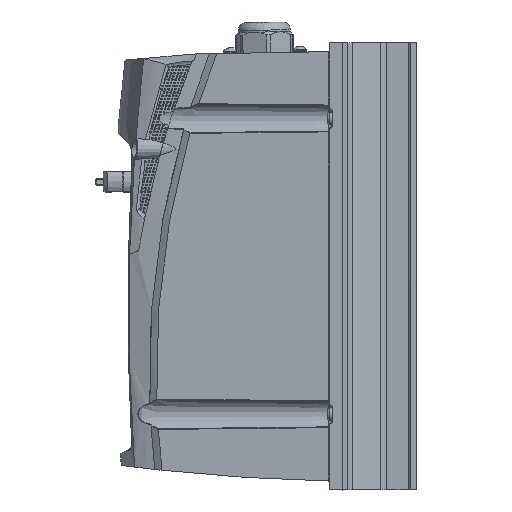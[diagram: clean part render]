
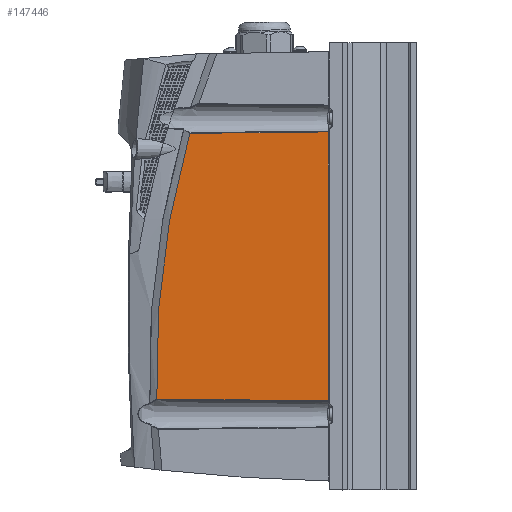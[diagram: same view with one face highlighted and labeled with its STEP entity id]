
A CAD part, left-side view. The second image highlights one B-rep face of the part: STEP entity #147446.
In plain terms, the highlighted planar face has unit normal (-1, 0.018, 0).
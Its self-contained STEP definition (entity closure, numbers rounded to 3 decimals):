
#136 = CARTESIAN_POINT ( 'NONE',  ( -82.177, 104.388, -54.147 ) ) ;
#446 = VERTEX_POINT ( 'NONE', #192588 ) ;
#11029 = AXIS2_PLACEMENT_3D ( 'NONE', #131018, #48707, #180840 ) ;
#14044 = VERTEX_POINT ( 'NONE', #24612 ) ;
#19577 = B_SPLINE_CURVE_WITH_KNOTS ( 'NONE', 3,
 ( #49216, #132243, #136, #115649, #151016, #33407, #83113, #100397, #148166, #166888 ),
 .UNSPECIFIED., .F., .F.,
 ( 4, 2, 2, 2, 4 ),
 ( 0., 0.214, 0.494, 0.773, 1. ),
 .UNSPECIFIED. ) ;
#19975 = EDGE_CURVE ( 'NONE', #446, #54726, #135291, .T. ) ;
#19976 = VERTEX_POINT ( 'NONE', #170591 ) ;
#24612 = CARTESIAN_POINT ( 'NONE',  ( -82.183, 104.038, -76.262 ) ) ;
#26316 = EDGE_CURVE ( 'NONE', #19976, #54726, #19577, .T. ) ;
#33407 = CARTESIAN_POINT ( 'NONE',  ( -82.273, 98.91, 14.19 ) ) ;
#33852 = LINE ( 'NONE', #191577, #139687 ) ;
#36716 = CARTESIAN_POINT ( 'NONE',  ( -83.366, 36.289, -76.947 ) ) ;
#38467 = CARTESIAN_POINT ( 'NONE',  ( -83.001, 57.211, 76.729 ) ) ;
#39225 = CARTESIAN_POINT ( 'NONE',  ( -82.513, 85.127, 76.449 ) ) ;
#43575 = ORIENTED_EDGE ( 'NONE', *, *, #70239, .T. ) ;
#48707 = DIRECTION ( 'NONE',  ( -1., 0.017, 0. ) ) ;
#49216 = CARTESIAN_POINT ( 'NONE',  ( -82.183, 104.042, -76.222 ) ) ;
#53360 = FACE_OUTER_BOUND ( 'NONE', #112932, .T. ) ;
#54726 = VERTEX_POINT ( 'NONE', #39225 ) ;
#64161 = CARTESIAN_POINT ( 'NONE',  ( -83.903, 5.491, -77.289 ) ) ;
#70239 = EDGE_CURVE ( 'NONE', #162775, #446, #33852, .T. ) ;
#72355 = CARTESIAN_POINT ( 'NONE',  ( -83.464, 30.666, 77.009 ) ) ;
#75399 = ORIENTED_EDGE ( 'NONE', *, *, #85823, .T. ) ;
#83113 = CARTESIAN_POINT ( 'NONE',  ( -82.314, 96.547, 28.398 ) ) ;
#85823 = EDGE_CURVE ( 'NONE', #19976, #14044, #123917, .T. ) ;
#86444 = CARTESIAN_POINT ( 'NONE',  ( -82.183, 104.038, -76.262 ) ) ;
#89323 = CARTESIAN_POINT ( 'NONE',  ( -82.183, 104.041, -76.235 ) ) ;
#96312 = PLANE ( 'NONE',  #11029 ) ;
#100397 = CARTESIAN_POINT ( 'NONE',  ( -82.408, 91.157, 53.895 ) ) ;
#107395 = CARTESIAN_POINT ( 'NONE',  ( -82.183, 104.042, -76.222 ) ) ;
#112932 = EDGE_LOOP ( 'NONE', ( #43575, #118351, #211593, #75399, #145964 ) ) ;
#115649 = CARTESIAN_POINT ( 'NONE',  ( -82.192, 103.514, -28.736 ) ) ;
#118351 = ORIENTED_EDGE ( 'NONE', *, *, #19975, .T. ) ;
#120755 = CARTESIAN_POINT ( 'NONE',  ( -82.513, 85.127, 76.449 ) ) ;
#123917 = B_SPLINE_CURVE_WITH_KNOTS ( 'NONE', 3,
 ( #107395, #89323, #140636, #124012 ),
 .UNSPECIFIED., .F., .F.,
 ( 4, 4 ),
 ( 0., 1. ),
 .UNSPECIFIED. ) ;
#124012 = CARTESIAN_POINT ( 'NONE',  ( -82.183, 104.038, -76.262 ) ) ;
#131018 = CARTESIAN_POINT ( 'NONE',  ( -84.001, -0.087, -128.5 ) ) ;
#132243 = CARTESIAN_POINT ( 'NONE',  ( -82.177, 104.399, -65.19 ) ) ;
#134166 = CARTESIAN_POINT ( 'NONE',  ( -83.903, 5.491, -77.289 ) ) ;
#135291 = B_SPLINE_CURVE_WITH_KNOTS ( 'NONE', 3,
 ( #137377, #72355, #38467, #120755 ),
 .UNSPECIFIED., .F., .F.,
 ( 4, 4 ),
 ( 0., 1. ),
 .UNSPECIFIED. ) ;
#137377 = CARTESIAN_POINT ( 'NONE',  ( -83.903, 5.491, 77.289 ) ) ;
#139687 = VECTOR ( 'NONE', #192280, 1000. ) ;
#140636 = CARTESIAN_POINT ( 'NONE',  ( -82.183, 104.039, -76.248 ) ) ;
#145964 = ORIENTED_EDGE ( 'NONE', *, *, #213927, .T. ) ;
#147446 = ADVANCED_FACE ( 'NONE', ( #53360 ), #96312, .T. ) ;
#147672 = B_SPLINE_CURVE_WITH_KNOTS ( 'NONE', 3,
 ( #86444, #186138, #36716, #134166 ),
 .UNSPECIFIED., .F., .F.,
 ( 4, 4 ),
 ( 0., 1. ),
 .UNSPECIFIED. ) ;
#148166 = CARTESIAN_POINT ( 'NONE',  ( -82.457, 88.34, 65.229 ) ) ;
#151016 = CARTESIAN_POINT ( 'NONE',  ( -82.212, 102.394, -14.376 ) ) ;
#162775 = VERTEX_POINT ( 'NONE', #64161 ) ;
#166888 = CARTESIAN_POINT ( 'NONE',  ( -82.513, 85.127, 76.449 ) ) ;
#170591 = CARTESIAN_POINT ( 'NONE',  ( -82.183, 104.042, -76.222 ) ) ;
#180840 = DIRECTION ( 'NONE',  ( -0.017, -1., 0. ) ) ;
#186138 = CARTESIAN_POINT ( 'NONE',  ( -82.792, 69.138, -76.604 ) ) ;
#191577 = CARTESIAN_POINT ( 'NONE',  ( -83.903, 5.491, -128.5 ) ) ;
#192280 = DIRECTION ( 'NONE',  ( 0., 0., 1. ) ) ;
#192588 = CARTESIAN_POINT ( 'NONE',  ( -83.903, 5.491, 77.289 ) ) ;
#211593 = ORIENTED_EDGE ( 'NONE', *, *, #26316, .F. ) ;
#213927 = EDGE_CURVE ( 'NONE', #14044, #162775, #147672, .T. ) ;
